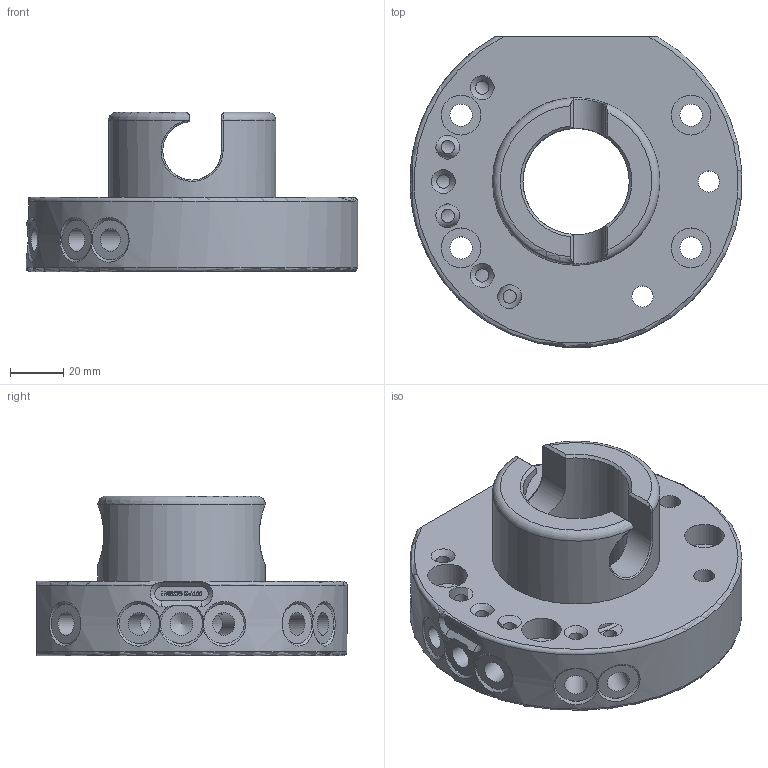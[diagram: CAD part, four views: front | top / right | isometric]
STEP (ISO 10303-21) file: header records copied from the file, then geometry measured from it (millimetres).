
FILE_DESCRIPTION(/* description */ (''),/* implementation_level */ '2;1');
FILE_NAME(/* name */ 'G-HWS125-U-A100_Rev.1.01.stp',/* time_stamp */ '2025-03-18T14:57:31+01:00',/* author */ ('ysplieth'),/* organization */ (''),/* preprocessor_version */ 'ST-DEVELOPER v20',/* originating_system */ 'Autodesk Inventor 2024',/* authorisation */ '');
FILE_SCHEMA (('AUTOMOTIVE_DESIGN { 1 0 10303 214 3 1 1 }'));
Length unit declared in the file: millimetre
Products named in the file (1): Bauteil1
Bounding box: 124.95 x 116.9 x 60 mm (x, y, z)
Volume: 312713.2 mm3; surface area: 53996.8 mm2
Topology: 1 solids, 1 shells, 292 faces, 779 edges, 513 vertices
Faces by surface type: plane 130, bspline 85, cylinder 49, cone 24, torus 4
Full cylindrical faces by diameter (mm): 3.242 x4, 4 x2, 5 x6, 8 x2, 8.376 x4, 8.566 x6, 15 x4, 40 x1, 63 x2
Entity records: 12168 total; most frequent: CARTESIAN_POINT 5329, ORIENTED_EDGE 1534, DIRECTION 1041, EDGE_CURVE 767, VERTEX_POINT 512, LINE 425, VECTOR 425, EDGE_LOOP 353
